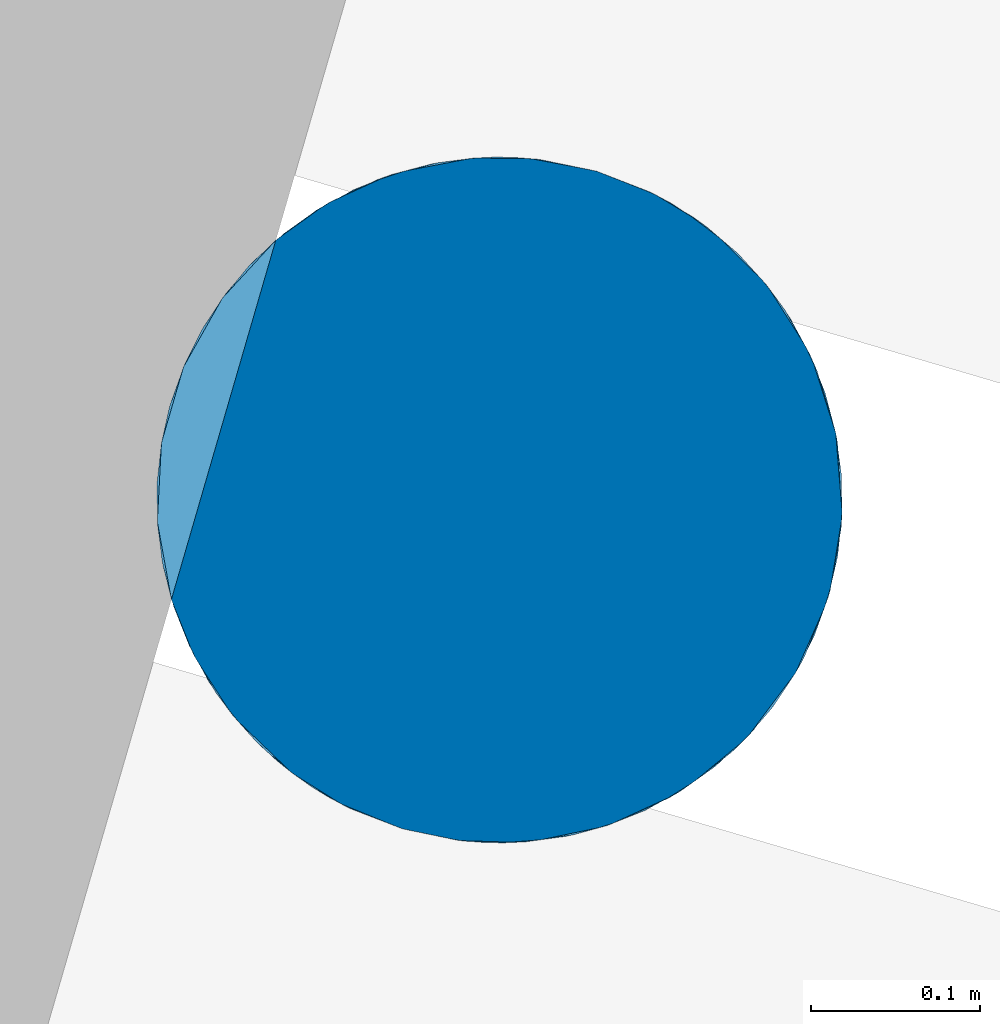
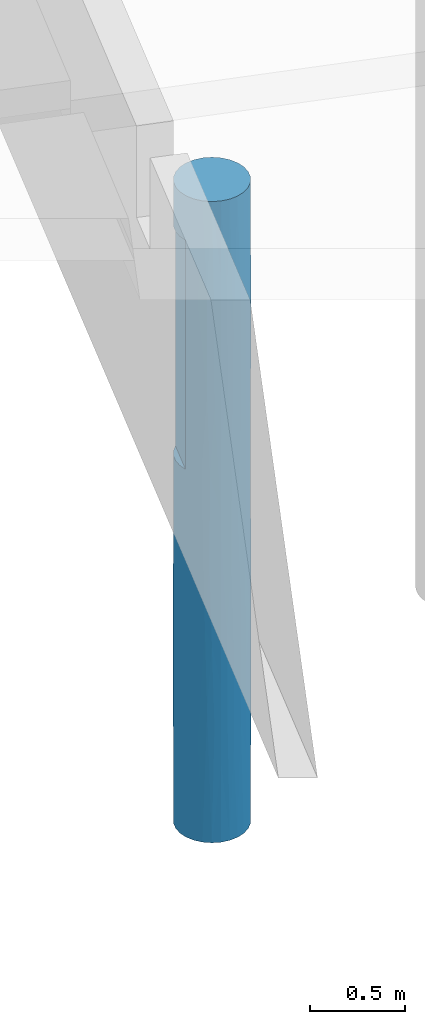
# One storey, part 2 of 4: 1 column.
"""IFC2X3 building model written with IfcOpenShell, lengths in millimetres."""

import ifcopenshell
import ifcopenshell.guid

model = None  # the IFC model being written
_history = None  # IfcOwnerHistory: only IFC2X3 demands one
_inside = {}  # id of a spatial element -> (the spatial element, [elements in it])
_under = {}  # id of a project, library or spatial element -> (it, [spatial elements below it])
_declared = {}  # id of a project -> (the project, [libraries it declares])
_typed = {}  # id of a type object -> (the type object, [elements of that type])
_made_of = {}  # id of a material, layer set ... -> (it, [elements and type objects made of it])


def new_model(schema):
    """Start an empty IFC model of exactly this schema.

    Asked for "IFC4X3", IfcOpenShell would pick the latest addendum, in which some entities
    have other attributes; the version numbers below select the first issue.
    IFC2X3 requires an IfcOwnerHistory on every rooted entity: one is made here for all.
    """
    global model, _history
    if schema == "IFC4X3":
        model = ifcopenshell.file(schema_version=(4, 3, 0, 0))
    else:
        model = ifcopenshell.file(schema=schema)
    _inside.clear()
    _under.clear()
    _declared.clear()
    _typed.clear()
    _made_of.clear()
    _history = None
    if model.schema == "IFC2X3":
        org = make("IfcOrganization", Name="unknown")
        user = make(
            "IfcPersonAndOrganization",
            ThePerson=make("IfcPerson", FamilyName="unknown"),
            TheOrganization=org,
        )
        app = make(
            "IfcApplication",
            ApplicationDeveloper=org,
            Version="unknown",
            ApplicationFullName="unknown",
            ApplicationIdentifier="unknown",
        )
        _history = make(
            "IfcOwnerHistory",
            OwningUser=user,
            OwningApplication=app,
            ChangeAction="ADDED",
            CreationDate=0,
        )
    return model


def make(cls, **values):
    """One entity of the class cls with the attributes given. An attribute that is None is left unset."""
    return model.create_entity(
        cls, **{name: value for name, value in values.items() if value is not None}
    )


def entity(cls, *values):
    """Any entity or typed value of the class cls, its attributes in the order of the schema. None: left unset."""
    e = model.create_entity(cls)
    for i, value in enumerate(values):
        if value is not None:
            e[i] = value
    return e


def rooted(cls, **values):
    """An entity with a GlobalId (a new one), such as an element, a storey or a relation."""
    return make(cls, GlobalId=ifcopenshell.guid.new(), OwnerHistory=_history, **values)


def si_unit(unit_type, name, prefix=None):
    """IfcSIUnit, for example si_unit("LENGTHUNIT", "METRE", prefix="MILLI")."""
    return make("IfcSIUnit", UnitType=unit_type, Prefix=prefix, Name=name)


def converted_unit(unit_type, name, factor, base, dimensions=None, offset=None):
    """IfcConversionBasedUnit, such as the inch: factor (a typed value) times the base unit."""
    return make(
        "IfcConversionBasedUnit"
        if offset is None
        else "IfcConversionBasedUnitWithOffset",
        ConversionOffset=offset,
        Dimensions=None
        if dimensions is None
        else entity("IfcDimensionalExponents", *dimensions),
        UnitType=unit_type,
        Name=name,
        ConversionFactor=make(
            "IfcMeasureWithUnit", ValueComponent=factor, UnitComponent=base
        ),
    )


def assignment(units):
    """IfcUnitAssignment: the units of a project."""
    return None if units is None else make("IfcUnitAssignment", Units=units)


def point(xyz):
    """IfcCartesianPoint."""
    return None if xyz is None else make("IfcCartesianPoint", Coordinates=xyz)


def direction(xyz):
    """IfcDirection."""
    return None if xyz is None else make("IfcDirection", DirectionRatios=xyz)


def frame(location, z_axis=None, x_axis=None):
    """IfcAxis2Placement3D, a coordinate frame: its origin and axes. An axis left out is left unset."""
    return make(
        "IfcAxis2Placement3D",
        Location=point(location),
        Axis=direction(z_axis),
        RefDirection=direction(x_axis),
    )


def origin():
    """The frame at (0, 0, 0) with its axes left unset."""
    return frame((0.0, 0.0, 0.0))


def place(relative_to, where):
    """IfcLocalPlacement: puts the frame where relative to a parent placement (None: the world)."""
    return make(
        "IfcLocalPlacement", PlacementRelTo=relative_to, RelativePlacement=where
    )


def context(
    kind, dimensions, precision=None, world=None, true_north=None, identifier=None
):
    """IfcGeometricRepresentationContext, for example the 3D "Model" context."""
    return make(
        "IfcGeometricRepresentationContext",
        ContextIdentifier=identifier,
        ContextType=kind,
        CoordinateSpaceDimension=dimensions,
        Precision=precision,
        WorldCoordinateSystem=world,
        TrueNorth=true_north,
    )


def subcontext(parent, identifier, kind, view, scale=None):
    """IfcGeometricRepresentationSubContext, for example "Body" below "Model"."""
    return make(
        "IfcGeometricRepresentationSubContext",
        ContextIdentifier=identifier,
        ContextType=kind,
        ParentContext=parent,
        TargetScale=scale,
        TargetView=view,
    )


def project(units=None, contexts=None):
    """IfcProject with its units and contexts."""
    return rooted(
        "IfcProject",
        Name="project",
        RepresentationContexts=contexts,
        UnitsInContext=assignment(units),
    )


def spatial(cls, under=None, at=None, **own):
    """A site, building, storey or space (cls), placed at a placement, below another one or the project."""
    s = rooted(cls, ObjectPlacement=at, **own)
    if under is not None:
        _under.setdefault(under.id(), (under, []))[1].append(s)
    return s


def faces_of(points, faces, orient=None, outer=None):
    """IfcFace entities. A face is a list of loops; a loop is a list of indices into points, from 0.

    orient and outer hold one flag for each loop. By default every Orientation is true, the
    first loop of a face is its IfcFaceOuterBound and the others are IfcFaceBound.
    """
    made = []
    for i, loops in enumerate(faces):
        bounds = []
        for j, loop in enumerate(loops):
            is_outer = j == 0 if outer is None else outer[i][j]
            bounds.append(
                make(
                    "IfcFaceOuterBound" if is_outer else "IfcFaceBound",
                    Bound=make("IfcPolyLoop", Polygon=[points[k] for k in loop]),
                    Orientation=True if orient is None else orient[i][j],
                )
            )
        made.append(make("IfcFace", Bounds=bounds))
    return made


def faceted_brep(points, faces, orient=None, outer=None, voids=None):
    """IfcFacetedBrep: a solid bounded by flat faces; with voids (closed shells), ...WithVoids."""
    shared = [point(p) for p in points]
    hull = make("IfcClosedShell", CfsFaces=faces_of(shared, faces, orient, outer))
    if voids is None:
        return make("IfcFacetedBrep", Outer=hull)
    return make(
        "IfcFacetedBrepWithVoids",
        Outer=hull,
        Voids=[
            make(cls, CfsFaces=faces_of(shared, fs, o, b)) for cls, fs, o, b in voids
        ],
    )


def shape(context_of_items, identifier, shape_type, items):
    """IfcShapeRepresentation: the items that make up one representation, for example the "Body"."""
    return make(
        "IfcShapeRepresentation",
        ContextOfItems=context_of_items,
        RepresentationIdentifier=identifier,
        RepresentationType=shape_type,
        Items=items,
    )


def source(mapping_origin, context_of_items, identifier, shape_type, items):
    """IfcRepresentationMap: a shape defined once, which mapped items show again and again."""
    return make(
        "IfcRepresentationMap",
        MappingOrigin=mapping_origin,
        MappedRepresentation=shape(context_of_items, identifier, shape_type, items),
    )


def transform(
    local_origin,
    x_axis=None,
    y_axis=None,
    z_axis=None,
    scale=None,
    scale2=None,
    scale3=None,
    uniform=True,
):
    """IfcCartesianTransformationOperator3D, or its non-uniform kind. x_axis, y_axis, z_axis: its Axis1, 2, 3."""
    if uniform:
        return make(
            "IfcCartesianTransformationOperator3D",
            Axis1=direction(x_axis),
            Axis2=direction(y_axis),
            LocalOrigin=point(local_origin),
            Scale=scale,
            Axis3=direction(z_axis),
        )
    return make(
        "IfcCartesianTransformationOperator3DnonUniform",
        Axis1=direction(x_axis),
        Axis2=direction(y_axis),
        LocalOrigin=point(local_origin),
        Scale=scale,
        Axis3=direction(z_axis),
        Scale2=scale2,
        Scale3=scale3,
    )


def mapped(mapping_source, mapping_target):
    """IfcMappedItem: shows the shape of a source again, moved by a transform."""
    return make(
        "IfcMappedItem", MappingSource=mapping_source, MappingTarget=mapping_target
    )


def material(Name=None, Category=None):
    """IfcMaterial."""
    return make("IfcMaterial", Name=Name, Category=Category)


def made_of(thing, what):
    """Note that an element or type object is made of a material, layer set ...; save() writes the relation."""
    if what is not None:
        _made_of.setdefault(what.id(), (what, []))[1].append(thing)
    return thing


def type_object(cls, material=None, **own):
    """A type object (cls), such as IfcWallType, which elements share."""
    return made_of(rooted(cls, **own), material)


def type_shapes(of_type, sources):
    """Give a type object the sources (RepresentationMaps) that its elements show as mapped items."""
    of_type.RepresentationMaps = sources


def element(
    cls,
    number,
    at=None,
    inside=None,
    cuts=None,
    type_object=None,
    material=None,
    context=None,
    identifier="Body",
    shape_type=None,
    held_by="IfcProductDefinitionShape",
    body=None,
    shapes=None,
    **own,
):
    """One element of the class cls, such as IfcWall. Its Tag is "e" and its number.

    at: its placement. inside: the storey or other place that contains it. cuts: it is an
    opening in that element (IfcRelVoidsElement). A single representation is given by context,
    identifier, shape_type and body (its items); several are given by shapes. held_by: the class
    of the entity that holds the representations. save() writes the other relations.
    """
    e = rooted(cls, Tag="e%d" % number, ObjectPlacement=at, **own)
    if body is not None:
        shapes = [shape(context, identifier, shape_type, body)]
    if shapes is not None:
        e.Representation = make(held_by, Representations=shapes)
    if inside is not None:
        _inside.setdefault(inside.id(), (inside, []))[1].append(e)
    if cuts is not None:
        rooted(
            "IfcRelVoidsElement", RelatingBuildingElement=cuts, RelatedOpeningElement=e
        )
    if type_object is not None:
        _typed.setdefault(type_object.id(), (type_object, []))[1].append(e)
    return made_of(e, material)


def aggregate(whole, parts):
    """IfcRelAggregates: a whole, such as a stair, and the parts it consists of."""
    return rooted("IfcRelAggregates", RelatingObject=whole, RelatedObjects=parts)


def save(model, path):
    """Write the relations noted so far, then the file.

    IfcRelAggregates (storeys below a building ...), IfcRelContainedInSpatialStructure (elements
    in a storey), IfcRelDefinesByType, IfcRelAssociatesMaterial and IfcRelDeclares: one each for
    every whole, place, type object, material and project.
    """
    for whole, parts in _under.values():
        aggregate(whole, parts)
    for where, things in _inside.values():
        rooted(
            "IfcRelContainedInSpatialStructure",
            RelatedElements=things,
            RelatingStructure=where,
        )
    for kind, things in _typed.values():
        rooted("IfcRelDefinesByType", RelatedObjects=things, RelatingType=kind)
    for what, things in _made_of.values():
        rooted("IfcRelAssociatesMaterial", RelatedObjects=things, RelatingMaterial=what)
    for by, libraries in _declared.values():
        rooted("IfcRelDeclares", RelatingContext=by, RelatedDefinitions=libraries)
    model.write(path)


model = new_model("IFC2X3")

# Units and contexts
model_context = context("Model", 3, precision=0.01, world=origin(), true_north=direction((6.123233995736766e-17, 1.0)))
body_context = subcontext(model_context, "Body", "Model", "MODEL_VIEW")
ifc_project = project(units=[si_unit("LENGTHUNIT", "METRE", prefix="MILLI"), si_unit("AREAUNIT", "SQUARE_METRE"), si_unit("VOLUMEUNIT", "CUBIC_METRE"), converted_unit("PLANEANGLEUNIT", "DEGREE", entity("IfcPlaneAngleMeasure", 0.017453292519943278), si_unit("PLANEANGLEUNIT", "RADIAN"), dimensions=[0, 0, 0, 0, 0, 0, 0])], contexts=[model_context])

# Site, building, storey
site_placement = place(None, origin())
site = spatial("IfcSite", under=ifc_project, at=site_placement, Name="SiteName", CompositionType="ELEMENT")
building_placement = place(site_placement, origin())
building = spatial("IfcBuilding", under=site, at=building_placement, Name="Building Name", CompositionType="ELEMENT")
storey_placement = place(building_placement, origin())
storey = spatial("IfcBuildingStorey", under=building, at=storey_placement, Name="NN 2000", CompositionType="ELEMENT", Elevation=3.401508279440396e-10)

# Column
ifc_material = material(Name="Concrete - Cast-in-Place")
column_type = type_object("IfcColumnType", Name="Concrete-Circular-Column:406", PredefinedType="COLUMN", material=ifc_material)
shared_shape = source(origin(), body_context, "Body", "Brep", [
    faceted_brep([(-5103.455480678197, 28514.64811502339, -4080.0), (-5069.399153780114, 28549.79187534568, -4080.0), (-5027.921989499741, 28575.764209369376, -4080.0), (-4981.434489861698, 28591.05569944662, -4080.0), (-4932.6383393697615, 28594.77765975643, -4080.0), (-4884.3693929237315, 28586.713783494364, -4080.0), (-4839.432866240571, 28567.33271383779, -4080.0), (-4800.440306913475, 28537.76080810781, -4080.0), (-4769.657820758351, 28499.716677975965, -4080.0), (-4748.874373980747, 28455.41131000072, -4080.0), (-4739.297824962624, 28407.41957112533, -4080.0), (-4741.4847279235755, 28358.530566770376, -4080.0), (-4755.30798801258, 28311.585548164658, -4080.0), (-4779.96424759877, 28269.312789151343, -4080.0), (-4814.020574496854, 28234.169028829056, -4080.0), (-4855.497738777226, 28208.196694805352, -4080.0), (-4901.98523841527, 28192.90520472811, -4080.0), (-4950.781388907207, 28189.183244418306, -4080.0), (-4999.050335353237, 28197.247120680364, -4080.0), (-5043.986862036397, 28216.628190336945, -4080.0), (-5082.979421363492, 28246.200096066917, -4080.0), (-5113.761907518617, 28284.244226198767, -4080.0), (-5134.54535429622, 28328.549594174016, -4080.0), (-5144.1219033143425, 28376.5413330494, -4080.0), (-5141.935000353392, 28425.430337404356, -4080.0), (-5128.111740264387, 28472.375356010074, -4080.0), (-5087.490220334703, 28533.250009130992, -3539.296346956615), (-5049.446090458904, 28564.032495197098, -3283.6013018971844), (-5140.785111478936, 28352.255826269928, -3436.0656250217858), (-5091.000973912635, 28529.534676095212, -2897.388798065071), (-5050.350767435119, 28563.46267895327, -2374.468120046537), (-5125.493621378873, 28305.768326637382, -3237.836728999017), (-5099.521287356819, 28264.29116239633, -3436.065625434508), (-5099.5212873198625, 28264.291162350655, -2660.0113307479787), (-4932.638339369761, 28594.77765975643, 20.0), (-4957.148983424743, 28594.39249124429, -577.6899404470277), (-4981.434489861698, 28591.055699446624, 20.0), (-5141.469980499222, 28355.857109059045, -2462.9668373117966), (-5125.510380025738, 28305.804061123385, -2368.838243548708), (-5135.980447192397, 28333.091229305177, -1730.0), (-5117.062125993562, 28494.257449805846, -3457.165836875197), (-5118.51382342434, 28491.726930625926, -2460.4008957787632), (-5136.443195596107, 28449.32092313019, -3345.0694041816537), (-5091.000973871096, 28529.534676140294, -2264.7922329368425), (-5105.849606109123, 28511.425607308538, -1730.0), (-5074.165535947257, 28545.813137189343, -1730.0), (-4957.148983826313, 28594.392491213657, -1272.205737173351), (-5013.896422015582, 28581.712106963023, -1710.617705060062), (-5005.140722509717, 28584.815942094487, -771.3416530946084), (-4884.369392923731, 28586.713783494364, 20.0), (-4884.369392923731, 28586.71378349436, -477.4913123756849), (-4884.369392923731, 28586.71378349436, -3582.5086876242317), (-5144.507071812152, 28401.05197675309, -3545.130851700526), (-5137.244559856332, 28446.525688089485, -2586.3640157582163), (-5144.435989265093, 28402.521713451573, -2904.230185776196), (-4918.921930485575, 28593.697357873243, -756.2543341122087), (-4957.148983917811, 28594.39249120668, -3233.713005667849), (-5073.639181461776, 28237.69611966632, -2719.364508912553), (-5064.377527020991, 28230.234835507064, -3237.8367294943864), (-5043.7354863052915, 28216.48181271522, -2821.3593791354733), (-5027.92198949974, 28575.764209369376, 20.0), (-5044.56532900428, 28566.99403255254, -631.4167484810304), (-5069.399153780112, 28549.79187534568, 20.0), (-4946.027228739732, 28594.934536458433, -2318.580226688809), (-4884.369392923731, 28586.713783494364, -2090.034750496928), (-4884.36939292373, 28586.71378349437, -2497.473921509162), (-4884.36939292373, 28586.713783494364, -3024.982614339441), (-4884.369392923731, 28586.713783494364, -3085.017375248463), (-5074.165535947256, 28545.813137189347, -265.22233750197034), (-5105.849606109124, 28511.425607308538, -265.22233750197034), (-5103.455480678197, 28514.648115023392, 20.0), (-5128.111740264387, 28472.375356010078, 20.0), (-5128.825086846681, 28470.70080162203, -265.22233750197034), (-5141.935000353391, 28425.43033740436, 20.0), (-4918.725813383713, 28593.675105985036, -3333.7630405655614), (-4999.050335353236, 28197.247120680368, -3582.4996521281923), (-5043.986862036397, 28216.628190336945, 20.0), (-4999.050335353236, 28197.247120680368, -477.50034787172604), (-4999.050335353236, 28197.247120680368, 20.0), (-4999.050335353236, 28197.247120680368, -2527.5003478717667), (-4999.050335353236, 28197.247120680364, -3085.015151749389), (-5005.140723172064, 28584.81594187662, -2649.893763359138), (-5144.435989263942, 28402.52171347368, -2268.4978445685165), (-5144.301053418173, 28379.103727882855, -1730.0), (-5141.872992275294, 28425.7994132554, -1730.0), (-5030.09762210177, 28209.233073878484, -1312.1683791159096), (-4999.050335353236, 28197.247120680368, -974.9848482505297), (-5032.281696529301, 28210.305623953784, -726.2369612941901), (-5113.761907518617, 28284.244226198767, 20.0), (-5099.521287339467, 28264.291162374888, -647.9541009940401), (-5082.9794213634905, 28246.200096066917, 20.0), (-5128.825086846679, 28470.700801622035, -1730.0), (-5005.140722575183, 28584.815942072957, -3446.141814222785), (-5074.165535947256, 28545.813137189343, -997.6111687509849), (-5041.671216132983, 28568.66301519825, -1260.8483787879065), (-5031.6732327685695, 28210.00355161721, -3333.763038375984), (-5064.377527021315, 28230.23483550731, -553.0523617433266), (-5141.872992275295, 28425.799413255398, -265.22233750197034), (-5144.301053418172, 28379.10372788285, -265.22233750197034), (-5144.1219033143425, 28376.5413330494, 20.0), (-5135.9804471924, 28333.09122930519, -265.22233750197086), (-5134.54535429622, 28328.549594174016, 20.0), (-5051.86931046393, 28221.469759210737, -1743.9704705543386), (-5086.009500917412, 28249.198748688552, -1708.8836927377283), (-5054.626259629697, 28223.282830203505, -2304.3861008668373), (-5122.96654295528, 28300.574673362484, -631.41675401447), (-5109.548079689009, 28277.790551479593, -1363.8055856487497), (-5135.980447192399, 28333.09122930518, -997.6116562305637), (-4978.7613326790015, 28591.57050364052, -1971.8336618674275), (-4940.63383673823, 28594.97760025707, -1771.1313688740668), (-5064.377526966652, 28230.234835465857, -1226.4823411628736), (-4917.718005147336, 28593.557709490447, -1328.404306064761), (-4999.050335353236, 28197.247120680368, -1969.969696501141), (-4884.36939292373, 28586.713783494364, -974.9826143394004), (-4884.369392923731, 28586.713783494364, -1035.0173752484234), (-4884.369392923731, 28586.713783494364, -1562.5260628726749), (-4884.36939292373, 28586.713783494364, -1969.9652286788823), (-4999.050335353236, 28197.247120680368, -1532.504305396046), (-4999.050335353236, 28197.247120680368, -2090.030594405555), (-4926.270745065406, 28189.568412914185, -3506.947637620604), (-4783.898440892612, 28519.669741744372, -601.5624778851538), (-4769.657820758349, 28499.716677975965, 20.0), (-4757.926106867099, 28478.19257747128, -706.3629144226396), (-4738.912656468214, 28382.908927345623, -3085.5168116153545), (-4745.9100822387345, 28338.39458260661, -2557.7584056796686), (-4746.976532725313, 28334.63998089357, -3394.0388843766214), (-4833.973638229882, 28219.92840871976, -3577.754014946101), (-4795.929508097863, 28250.710894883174, -3353.6370853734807), (-4833.973638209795, 28219.928408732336, -2963.4495650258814), (-4741.763444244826, 28427.057925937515, -2585.0396230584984), (-4753.644385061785, 28468.402802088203, -1949.2217421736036), (-4741.488782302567, 28425.45459716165, -1761.8996616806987), (-4965.788570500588, 28190.413550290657, -574.565807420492), (-4855.497738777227, 28208.196694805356, 20.0), (-4833.97363820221, 28219.928408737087, -847.950436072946), (-4814.020574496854, 28234.169028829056, 20.0), (-4748.874373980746, 28455.41131000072, 20.0), (-4742.634616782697, 28431.70507782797, -3394.038884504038), (-4966.461876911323, 28190.495122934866, -2747.8316188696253), (-4964.045080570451, 28190.21291726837, -3333.7630379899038), (-4766.3576023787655, 28289.70345420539, -3577.7540150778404), (-4779.96424759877, 28269.312789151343, 20.0), (-4795.929508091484, 28250.71089488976, -630.2069100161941), (-4878.279006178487, 28199.144961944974, -630.2069101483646), (-4878.279006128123, 28199.14496196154, -1462.752174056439), (-4878.279006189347, 28199.1449619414, -3353.637085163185), (-4739.297824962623, 28407.41957112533, 20.0), (-4741.4847279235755, 28358.530566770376, 20.0), (-4738.912656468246, 28382.908927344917, -601.562477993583), (-4926.2707450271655, 28189.568412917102, -847.9504363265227), (-4938.703782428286, 28189.002710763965, -1768.9302518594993), (-4800.440306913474, 28537.760808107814, 20.0), (-4901.98523841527, 28192.90520472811, 20.0), (-4791.361972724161, 28255.582095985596, -2691.8185427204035), (-4876.305216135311, 28199.80544845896, -2571.636055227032), (-4926.270745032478, 28189.5684129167, -2833.5176577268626), (-4763.935838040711, 28293.973331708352, -2174.994932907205), (-4766.357602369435, 28289.703454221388, -2963.4495653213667), (-4795.929508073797, 28250.71089490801, -2030.000000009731), (-4819.042201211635, 28553.72606863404, -3502.291701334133), (-4783.89844089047, 28519.669741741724, -3302.915612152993), (-4850.485740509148, 28573.32862348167, -600.0403520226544), (-4850.057416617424, 28573.112527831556, -1166.2897186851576), (-4819.042201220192, 28553.726068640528, -2824.8953580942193), (-4852.510390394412, 28574.333005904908, -2728.209653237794), (-4827.145728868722, 28559.563443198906, -1955.725192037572), (-4757.926106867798, 28478.19257747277, -2824.895357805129), (-4757.926106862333, 28478.19257746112, -3502.2917011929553), (-4783.898440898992, 28519.66974175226, -2540.4175098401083), (-4804.466862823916, 28242.403185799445, -1330.1034549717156), (-4836.236965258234, 28218.531705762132, -1842.0416648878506), (-4819.042201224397, 28553.726068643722, -962.0174575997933), (-4839.432866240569, 28567.33271383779, 20.0), (-4755.30798801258, 28311.585548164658, 20.0), (-4766.357602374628, 28289.703454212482, -482.2459850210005), (-4746.976532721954, 28334.63998090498, -706.3629144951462), (-4950.781388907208, 28189.183244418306, 20.0), (-4941.608639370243, 28188.980477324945, -2323.4217072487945), (-4898.472027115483, 28193.638602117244, -2025.7738866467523), (-4742.634616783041, 28431.70507782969, -482.24598502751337), (-4783.898440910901, 28519.66974176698, -1729.4817921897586), (-4851.325423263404, 28573.748581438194, -3303.7456536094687), (-4780.387012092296, 28268.757331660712, -1498.8362703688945), (-4960.949834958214, 28189.894273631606, -1160.8211345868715), (-4766.357602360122, 28289.703454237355, -1096.5504348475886), (-4746.856389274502, 28335.049587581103, -1553.9446464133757), (-4738.912656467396, 28382.908927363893, -2030.0000000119), (-4739.006410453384, 28381.011866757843, -1315.781238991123), (-4753.8120180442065, 28468.814034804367, -1274.9871166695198), (-4772.504129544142, 28504.134004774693, -1165.5221350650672), (-4739.406351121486, 28375.179005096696, -2557.7584057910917), (-4760.933139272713, 28299.62908097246, -1627.38747320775), (-4742.634616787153, 28431.705077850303, -1096.5504348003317), (-4841.712444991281, 28215.318299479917, -2406.5328962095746)], [[[0, 1, 2, 3, 4, 5, 6, 7, 8, 9, 10, 11, 12, 13, 14, 15, 16, 17, 18, 19, 20, 21, 22, 23, 24, 25]], [[1, 26, 27]], [[22, 28, 23]], [[29, 30, 27]], [[31, 32, 33]], [[34, 35, 36]], [[37, 38, 39]], [[2, 1, 27]], [[40, 41, 29]], [[24, 42, 25]], [[38, 31, 33]], [[43, 44, 45]], [[44, 43, 41]], [[46, 47, 48]], [[34, 49, 50]], [[5, 4, 51]], [[42, 24, 52]], [[26, 1, 0]], [[53, 42, 54]], [[35, 55, 46]], [[56, 4, 3]], [[57, 58, 59]], [[36, 35, 48]], [[60, 61, 62]], [[63, 64, 65, 66, 67]], [[60, 36, 48]], [[23, 52, 24]], [[68, 69, 70]], [[20, 19, 58]], [[69, 71, 70]], [[71, 69, 72]], [[71, 72, 73]], [[63, 67, 74]], [[40, 25, 42]], [[68, 70, 62]], [[60, 48, 61]], [[19, 18, 75]], [[76, 77, 78]], [[79, 59, 80]], [[30, 47, 81]], [[22, 31, 28]], [[53, 54, 82]], [[82, 83, 84]], [[83, 82, 37]], [[85, 86, 87]], [[88, 89, 90]], [[31, 22, 21]], [[41, 91, 44]], [[27, 92, 2]], [[93, 94, 45]], [[21, 32, 31]], [[0, 25, 40]], [[92, 81, 56]], [[95, 59, 58]], [[20, 32, 21]], [[30, 29, 43]], [[90, 96, 76]], [[97, 98, 73]], [[87, 86, 77]], [[98, 99, 73]], [[99, 98, 100]], [[99, 100, 101]], [[56, 81, 63]], [[2, 92, 3]], [[97, 73, 72]], [[102, 103, 104]], [[100, 105, 101]], [[89, 105, 106]], [[106, 107, 39]], [[108, 46, 109]], [[96, 89, 110]], [[37, 39, 83]], [[106, 39, 38]], [[100, 107, 105]], [[74, 67, 51]], [[46, 55, 111]], [[91, 41, 53]], [[28, 37, 54]], [[79, 104, 59]], [[93, 68, 61]], [[101, 105, 88]], [[110, 89, 106]], [[20, 58, 32]], [[32, 58, 57]], [[37, 28, 31]], [[52, 28, 54]], [[102, 112, 85]], [[110, 103, 102]], [[81, 92, 27]], [[56, 3, 92]], [[108, 81, 47]], [[111, 109, 46]], [[41, 40, 42]], [[26, 40, 29]], [[50, 55, 34]], [[48, 35, 46]], [[89, 96, 90]], [[87, 76, 96]], [[31, 38, 37]], [[38, 33, 103]], [[30, 43, 45]], [[41, 43, 29]], [[47, 30, 45]], [[27, 30, 81]], [[84, 91, 53]], [[37, 82, 54]], [[53, 82, 84]], [[42, 53, 41]], [[40, 26, 0]], [[27, 26, 29]], [[55, 50, 113, 114]], [[55, 114, 111]], [[34, 55, 35]], [[109, 115, 116, 64]], [[109, 64, 63]], [[111, 115, 109]], [[108, 109, 63]], [[81, 108, 63]], [[46, 108, 47]], [[110, 85, 87]], [[76, 87, 77]], [[110, 87, 96]], [[102, 85, 110]], [[85, 112, 117, 86]], [[103, 110, 106]], [[112, 102, 104]], [[38, 103, 106]], [[103, 33, 57]], [[111, 114, 115]], [[28, 52, 23]], [[42, 52, 54]], [[106, 105, 107]], [[88, 105, 89]], [[93, 61, 94]], [[61, 68, 62]], [[94, 48, 47]], [[48, 94, 61]], [[45, 94, 47]], [[95, 75, 80]], [[19, 75, 95]], [[19, 95, 58]], [[104, 79, 118, 112]], [[59, 95, 80]], [[57, 59, 104]], [[103, 57, 104]], [[57, 33, 32]], [[74, 4, 56]], [[4, 74, 51]], [[63, 74, 56]], [[17, 16, 119]], [[120, 121, 122]], [[123, 124, 125]], [[126, 15, 14]], [[127, 128, 126]], [[129, 130, 131]], [[127, 14, 13]], [[132, 78, 77, 86]], [[133, 134, 135]], [[136, 122, 121]], [[10, 9, 137]], [[125, 12, 11]], [[138, 80, 139]], [[140, 13, 12]], [[141, 135, 142]], [[143, 144, 134]], [[145, 126, 128]], [[146, 147, 148]], [[149, 150, 144]], [[151, 121, 120]], [[133, 152, 143]], [[149, 143, 152]], [[6, 5, 51]], [[142, 135, 134]], [[10, 137, 123]], [[127, 153, 128]], [[154, 155, 145]], [[11, 10, 123]], [[156, 157, 124]], [[153, 156, 158]], [[159, 160, 7]], [[113, 161, 162]], [[163, 164, 165]], [[166, 167, 160, 168]], [[15, 145, 16]], [[7, 6, 159]], [[158, 169, 170]], [[125, 11, 123]], [[171, 172, 151]], [[173, 174, 175]], [[148, 147, 175]], [[139, 80, 75]], [[152, 176, 149]], [[177, 155, 178]], [[8, 7, 160]], [[129, 123, 137]], [[146, 179, 136]], [[171, 180, 165]], [[166, 130, 129]], [[136, 179, 122]], [[15, 126, 145]], [[159, 181, 163]], [[141, 174, 173]], [[173, 175, 147]], [[167, 9, 8]], [[49, 172, 161]], [[161, 172, 171]], [[134, 170, 169]], [[182, 142, 169]], [[176, 132, 149]], [[150, 183, 117]], [[168, 160, 159, 163]], [[17, 75, 18]], [[140, 127, 13]], [[163, 181, 164]], [[153, 127, 157]], [[154, 145, 128]], [[119, 145, 155]], [[144, 143, 149]], [[184, 185, 175]], [[186, 187, 185]], [[122, 188, 189]], [[189, 171, 120]], [[167, 137, 9]], [[129, 137, 166]], [[124, 123, 190]], [[140, 125, 157]], [[175, 174, 184]], [[124, 186, 185]], [[157, 125, 124]], [[169, 142, 134]], [[174, 142, 184]], [[127, 140, 157]], [[134, 133, 143]], [[156, 191, 182]], [[187, 192, 148]], [[168, 130, 166]], [[190, 129, 186]], [[130, 180, 189]], [[130, 188, 131]], [[183, 149, 132]], [[118, 138, 177]], [[187, 175, 185]], [[179, 148, 192]], [[189, 120, 122]], [[171, 151, 120]], [[193, 158, 170]], [[150, 178, 144]], [[170, 134, 144]], [[182, 191, 184]], [[178, 170, 144]], [[128, 193, 154]], [[160, 167, 8]], [[137, 167, 166]], [[122, 179, 192]], [[51, 181, 6]], [[145, 119, 16]], [[139, 17, 119]], [[181, 51, 67, 66]], [[181, 66, 164]], [[6, 181, 159]], [[164, 66, 65, 64, 116]], [[165, 180, 168]], [[164, 116, 165]], [[162, 116, 115, 114, 113]], [[124, 185, 156]], [[184, 191, 185]], [[155, 138, 139]], [[17, 139, 75]], [[155, 139, 119]], [[177, 138, 155]], [[138, 118, 79, 80]], [[178, 155, 154]], [[118, 177, 150]], [[165, 168, 163]], [[130, 168, 180]], [[122, 192, 188]], [[171, 189, 180]], [[131, 188, 192]], [[130, 189, 188]], [[127, 126, 14]], [[125, 140, 12]], [[142, 174, 141]], [[148, 179, 146]], [[187, 186, 131]], [[175, 187, 148]], [[156, 153, 157]], [[153, 158, 193]], [[162, 161, 171]], [[161, 113, 50, 49]], [[171, 165, 162]], [[116, 162, 165]], [[78, 132, 176]], [[183, 132, 86]], [[150, 117, 112, 118]], [[150, 149, 183]], [[183, 86, 117]], [[129, 190, 123]], [[186, 124, 190]], [[187, 131, 192]], [[129, 131, 186]], [[177, 178, 150]], [[178, 154, 193]], [[193, 128, 153]], [[178, 193, 170]], [[142, 182, 184]], [[156, 185, 191]], [[169, 158, 182]], [[156, 182, 158]], [[136, 121, 151, 172, 49, 34, 36, 60, 62, 70, 71, 73, 99, 101, 88, 90, 76, 78, 176, 152, 133, 135, 141, 173, 147, 146]], [[68, 93, 45, 39, 107, 100]], [[44, 91, 84, 83, 39, 45]], [[98, 97, 72, 69, 68, 100]]]),
])
type_shapes(column_type, [shared_shape])
column_placement = place(storey_placement, origin())
element("IfcColumn", 1, at=column_placement, inside=storey, type_object=column_type, material=ifc_material, Name="Concrete-Circular-Column:406", ObjectType="Concrete-Circular-Column:406", context=body_context, shape_type="MappedRepresentation", body=[
    mapped(shared_shape, transform((0.0, 0.0, 0.0), scale=1.0)),
])

save(model, "model.ifc")
